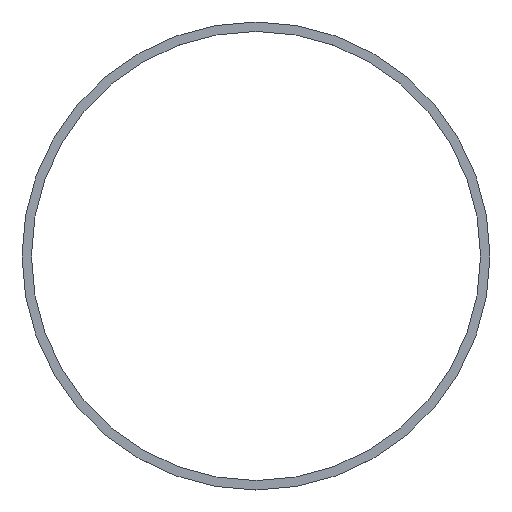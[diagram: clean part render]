
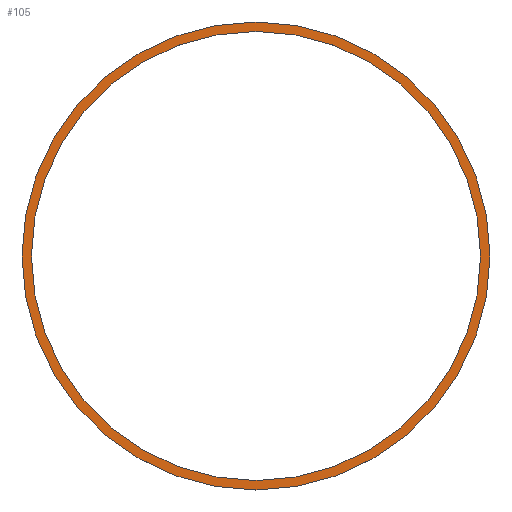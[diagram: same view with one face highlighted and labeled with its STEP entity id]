
A CAD part, top view. The second image highlights one B-rep face of the part: STEP entity #105.
In plain terms, the highlighted planar face has unit normal (0, 0, 1).
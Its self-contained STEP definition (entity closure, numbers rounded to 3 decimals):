
#21 = EDGE_CURVE('',#22,#22,#24,.T.);
#22 = VERTEX_POINT('',#23);
#23 = CARTESIAN_POINT('',(19.8,42.,-2.5));
#24 = SURFACE_CURVE('',#25,(#30,#42),.PCURVE_S1.);
#25 = CIRCLE('',#26,19.8);
#26 = AXIS2_PLACEMENT_3D('',#27,#28,#29);
#27 = CARTESIAN_POINT('',(0.,42.,-2.5));
#28 = DIRECTION('',(0.,0.,1.));
#29 = DIRECTION('',(1.,0.,-0.));
#30 = PCURVE('',#31,#36);
#31 = CYLINDRICAL_SURFACE('',#32,19.8);
#32 = AXIS2_PLACEMENT_3D('',#33,#34,#35);
#33 = CARTESIAN_POINT('',(0.,42.,-2.7));
#34 = DIRECTION('',(0.,0.,1.));
#35 = DIRECTION('',(1.,0.,-0.));
#36 = DEFINITIONAL_REPRESENTATION('',(#37),#41);
#37 = LINE('',#38,#39);
#38 = CARTESIAN_POINT('',(0.,0.2));
#39 = VECTOR('',#40,1.);
#40 = DIRECTION('',(1.,0.));
#41 = ( GEOMETRIC_REPRESENTATION_CONTEXT(2) 
PARAMETRIC_REPRESENTATION_CONTEXT() REPRESENTATION_CONTEXT('2D SPACE',''
  ) );
#42 = PCURVE('',#43,#48);
#43 = PLANE('',#44);
#44 = AXIS2_PLACEMENT_3D('',#45,#46,#47);
#45 = CARTESIAN_POINT('',(0.,42.,-2.5));
#46 = DIRECTION('',(0.,0.,1.));
#47 = DIRECTION('',(1.,0.,-0.));
#48 = DEFINITIONAL_REPRESENTATION('',(#49),#53);
#49 = CIRCLE('',#50,19.8);
#50 = AXIS2_PLACEMENT_2D('',#51,#52);
#51 = CARTESIAN_POINT('',(0.,0.));
#52 = DIRECTION('',(1.,0.));
#53 = ( GEOMETRIC_REPRESENTATION_CONTEXT(2) 
PARAMETRIC_REPRESENTATION_CONTEXT() REPRESENTATION_CONTEXT('2D SPACE',''
  ) );
#105 = ADVANCED_FACE('',(#106,#109),#43,.T.);
#106 = FACE_BOUND('',#107,.T.);
#107 = EDGE_LOOP('',(#108));
#108 = ORIENTED_EDGE('',*,*,#21,.T.);
#109 = FACE_BOUND('',#110,.T.);
#110 = EDGE_LOOP('',(#111));
#111 = ORIENTED_EDGE('',*,*,#112,.F.);
#112 = EDGE_CURVE('',#113,#113,#115,.T.);
#113 = VERTEX_POINT('',#114);
#114 = CARTESIAN_POINT('',(19.,42.,-2.5));
#115 = SURFACE_CURVE('',#116,(#121,#128),.PCURVE_S1.);
#116 = CIRCLE('',#117,19.);
#117 = AXIS2_PLACEMENT_3D('',#118,#119,#120);
#118 = CARTESIAN_POINT('',(0.,42.,-2.5));
#119 = DIRECTION('',(0.,0.,1.));
#120 = DIRECTION('',(1.,0.,-0.));
#121 = PCURVE('',#43,#122);
#122 = DEFINITIONAL_REPRESENTATION('',(#123),#127);
#123 = CIRCLE('',#124,19.);
#124 = AXIS2_PLACEMENT_2D('',#125,#126);
#125 = CARTESIAN_POINT('',(0.,0.));
#126 = DIRECTION('',(1.,0.));
#127 = ( GEOMETRIC_REPRESENTATION_CONTEXT(2) 
PARAMETRIC_REPRESENTATION_CONTEXT() REPRESENTATION_CONTEXT('2D SPACE',''
  ) );
#128 = PCURVE('',#129,#134);
#129 = CYLINDRICAL_SURFACE('',#130,19.);
#130 = AXIS2_PLACEMENT_3D('',#131,#132,#133);
#131 = CARTESIAN_POINT('',(0.,42.,-2.8));
#132 = DIRECTION('',(0.,0.,1.));
#133 = DIRECTION('',(1.,0.,-0.));
#134 = DEFINITIONAL_REPRESENTATION('',(#135),#139);
#135 = LINE('',#136,#137);
#136 = CARTESIAN_POINT('',(0.,0.3));
#137 = VECTOR('',#138,1.);
#138 = DIRECTION('',(1.,0.));
#139 = ( GEOMETRIC_REPRESENTATION_CONTEXT(2) 
PARAMETRIC_REPRESENTATION_CONTEXT() REPRESENTATION_CONTEXT('2D SPACE',''
  ) );
